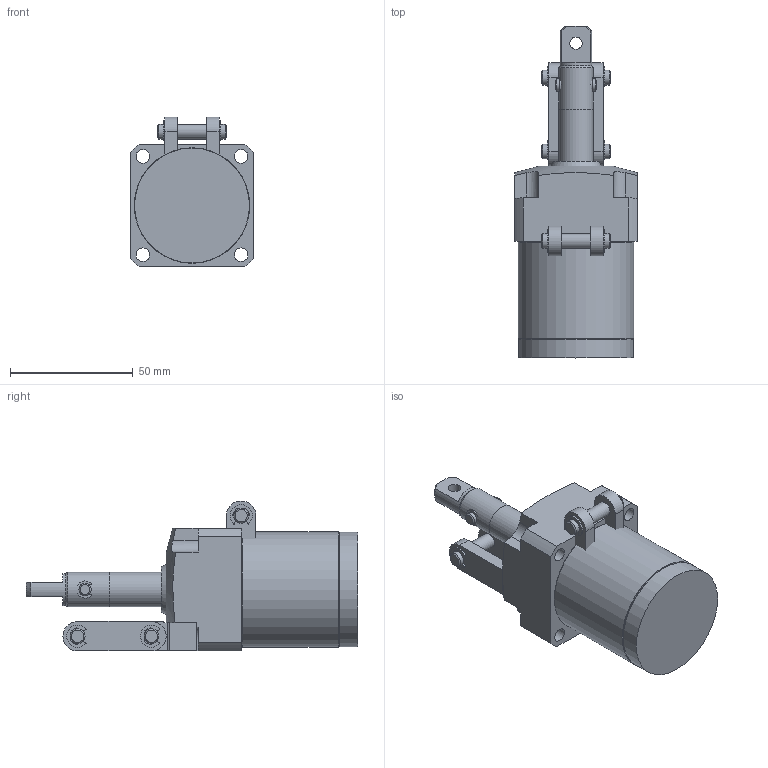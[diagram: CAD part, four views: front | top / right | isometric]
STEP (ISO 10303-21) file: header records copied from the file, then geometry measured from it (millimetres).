
FILE_DESCRIPTION( ( '' ), '1' );
FILE_NAME( 'W:/Catalogue/JL5H/JL5H28-22KR/JL5H28-22KR.stp', '2008-05-26T01:19:29', ( '機械事業部産業機器グループ' ), ( '豊和工業株式会社' ), 'XStep 1.0', ' ', ' ' );
FILE_SCHEMA( ( 'CONFIG_CONTROL_DESIGN' ) );
Length unit declared in the file: millimetre
Products named in the file (5): Assem1; 1; 2; 3; 4
Bounding box: 50 x 135 x 61 mm (x, y, z)
Volume: 292736.4 mm3; surface area: 71417.9 mm2
Topology: 8 solids, 10 shells, 514 faces, 1368 edges, 902 vertices
Faces by surface type: plane 258, cylinder 214, cone 40, torus 2
Full cylindrical faces by diameter (mm): 2 x2, 3 x4, 4 x8, 5 x8, 5.5 x8, 6 x14, 8.3 x4, 13 x2, 14 x4, 16 x2, 20 x2, 24 x4, 28 x4, 46 x4, 46.7 x2, 47 x2
Entity records: 7917 total; most frequent: CARTESIAN_POINT 1408, DIRECTION 1387, ORIENTED_EDGE 1200, EDGE_CURVE 600, AXIS2_PLACEMENT_3D 542, VERTEX_POINT 425, EDGE_LOOP 350, LINE 303
